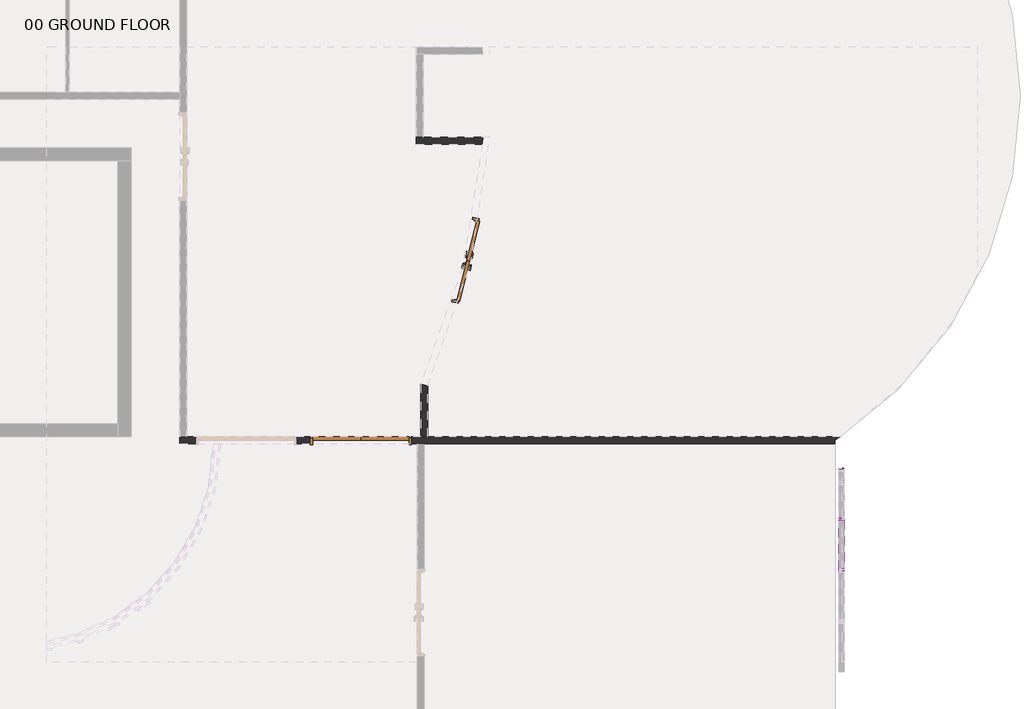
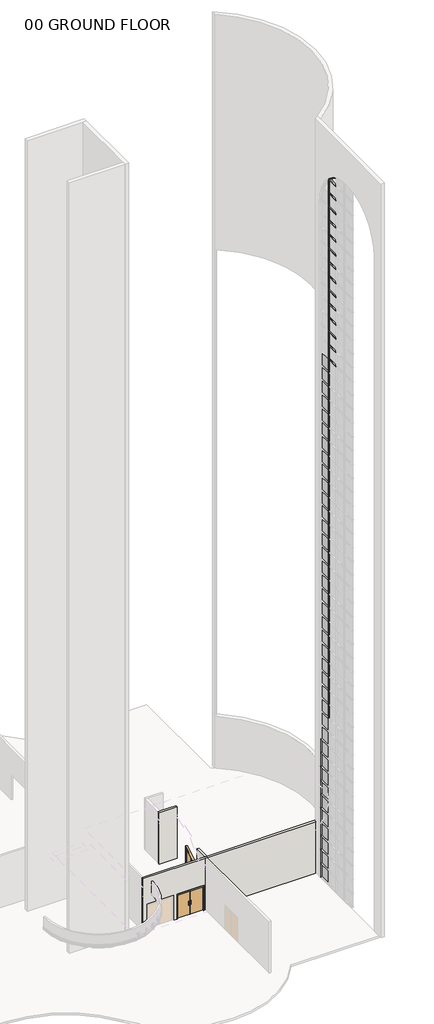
# One storey, part 22 of 33: 65 members, 38 plates, 3 walls, 2 doors.
"""IFC4 building model written with IfcOpenShell, lengths in millimetres."""

from ifc_helpers import new_model, si_unit, frame, origin, origin_with_axes, place, context, project, spatial, polyline, circle_curve, outline, extrude, transform, mapped, element, save
from ifc_brep_helpers import plane_surface, cylinder_surface, advanced_brep
from components import door_df8e76c5, door_0b13e4d9, member_d1490fb0, member_2b49869a, member_f6015b47, member_ba1b3d85, member_48355dab, member_75074519, system_panel_glazed_5adabceb, system_panel_glazed_b0e4ebfd

model = new_model("IFC4")

# Units and contexts
model_context = context("Model", 3, world=origin())
ifc_project = project(units=[si_unit("LENGTHUNIT", "METRE", prefix="MILLI")], contexts=[model_context])

# Site, building, storey
site = spatial("IfcSite", under=ifc_project)
building = spatial("IfcBuilding", under=site)
storey = spatial("IfcBuildingStorey", under=building, Name="00 GROUND FLOOR", Elevation=0.0)

# Doors
placement = place(None, origin())
door_shape = door_df8e76c5(model_context)
element("IfcDoor", 1, ObjectType="Door-Passage-Double-Flush : 72\" x 82\"", at=placement, inside=storey, context=model_context, shape_type="MappedRepresentation", body=[
    mapped(door_shape, transform((35886.7385063, 13277.3403388, 0.0), x_axis=(0.23936619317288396, 0.9709293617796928, 0.0), y_axis=(-0.9709293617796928, 0.23936619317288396, 0.0), z_axis=(0.0, 0.0, 1.0))),
])
door_2_shape = door_0b13e4d9(model_context)
element("IfcDoor", 2, ObjectType="Door-Passage-Double-Flush-Dbl_Acting : 84\" x 84\"", at=placement, inside=storey, context=model_context, shape_type="MappedRepresentation", body=[
    mapped(door_2_shape, transform((33564.0300515, 9293.225, 0.0), x_axis=(-1.0, 0.0, 0.0), y_axis=(0.0, -1.0, 0.0), z_axis=(0.0, 0.0, 1.0))),
])

# Members
member_shape = member_d1490fb0(model_context)
element("IfcMember", 3, ObjectType="Rectangular Mullion : 2.5\" x 5\" rectangular", at=placement, inside=storey, context=model_context, shape_type="MappedRepresentation", body=[
    mapped(member_shape, transform((44184.4050515, 7526.1107141, 46329.6), x_axis=(0.0, 0.0, 1.0), y_axis=(1.0, 0.0, 0.0), z_axis=(0.0, 1.0, 0.0))),
])
element("IfcMember", 4, ObjectType="Rectangular Mullion : 2.5\" x 5\" rectangular", at=placement, inside=storey, context=model_context, shape_type="MappedRepresentation", body=[
    mapped(member_shape, transform((44184.4050515, 7526.1107141, 47548.8), x_axis=(0.0, 0.0, 1.0), y_axis=(1.0, 0.0, 0.0), z_axis=(0.0, 1.0, 0.0))),
])
element("IfcMember", 5, ObjectType="Rectangular Mullion : 2.5\" x 5\" rectangular", at=placement, inside=storey, context=model_context, shape_type="MappedRepresentation", body=[
    mapped(member_shape, transform((44184.4050515, 7526.1107141, 48768.0), x_axis=(0.0, 0.0, 1.0), y_axis=(1.0, 0.0, 0.0), z_axis=(0.0, 1.0, 0.0))),
])
element("IfcMember", 6, ObjectType="Rectangular Mullion : 2.5\" x 5\" rectangular", at=placement, inside=storey, context=model_context, shape_type="MappedRepresentation", body=[
    mapped(member_shape, transform((44184.4050515, 7526.1107141, 49987.2), x_axis=(0.0, 0.0, 1.0), y_axis=(1.0, 0.0, 0.0), z_axis=(0.0, 1.0, 0.0))),
])
element("IfcMember", 7, ObjectType="Rectangular Mullion : 2.5\" x 5\" rectangular", at=placement, inside=storey, context=model_context, shape_type="MappedRepresentation", body=[
    mapped(member_shape, transform((44184.4050515, 7526.1107141, 51206.4), x_axis=(0.0, 0.0, 1.0), y_axis=(1.0, 0.0, 0.0), z_axis=(0.0, 1.0, 0.0))),
])
element("IfcMember", 8, ObjectType="Rectangular Mullion : 2.5\" x 5\" rectangular", at=placement, inside=storey, context=model_context, shape_type="MappedRepresentation", body=[
    mapped(member_shape, transform((44184.4050515, 7526.1107141, 52425.6), x_axis=(0.0, 0.0, 1.0), y_axis=(1.0, 0.0, 0.0), z_axis=(0.0, 1.0, 0.0))),
])
element("IfcMember", 9, ObjectType="Rectangular Mullion : 2.5\" x 5\" rectangular", at=placement, inside=storey, context=model_context, shape_type="MappedRepresentation", body=[
    mapped(member_shape, transform((44184.4050515, 7526.1107141, 53644.8), x_axis=(0.0, 0.0, 1.0), y_axis=(1.0, 0.0, 0.0), z_axis=(0.0, 1.0, 0.0))),
])
element("IfcMember", 10, ObjectType="Rectangular Mullion : 2.5\" x 5\" rectangular", at=placement, inside=storey, context=model_context, shape_type="MappedRepresentation", body=[
    mapped(member_shape, transform((44184.4050515, 7526.1107141, 54864.0), x_axis=(0.0, 0.0, 1.0), y_axis=(1.0, 0.0, 0.0), z_axis=(0.0, 1.0, 0.0))),
])
element("IfcMember", 11, ObjectType="Rectangular Mullion : 2.5\" x 5\" rectangular", at=placement, inside=storey, context=model_context, shape_type="MappedRepresentation", body=[
    mapped(member_shape, transform((44184.4050515, 7526.1107141, 56083.2), x_axis=(0.0, 0.0, 1.0), y_axis=(1.0, 0.0, 0.0), z_axis=(0.0, 1.0, 0.0))),
])
element("IfcMember", 12, ObjectType="Rectangular Mullion : 2.5\" x 5\" rectangular", at=placement, inside=storey, context=model_context, shape_type="MappedRepresentation", body=[
    mapped(member_shape, transform((44184.4050515, 7526.1107141, 57302.4), x_axis=(0.0, 0.0, 1.0), y_axis=(1.0, 0.0, 0.0), z_axis=(0.0, 1.0, 0.0))),
])
element("IfcMember", 13, ObjectType="Rectangular Mullion : 2.5\" x 5\" rectangular", at=placement, inside=storey, context=model_context, shape_type="MappedRepresentation", body=[
    mapped(member_shape, transform((44184.4050515, 7526.1107141, 58521.6), x_axis=(0.0, 0.0, 1.0), y_axis=(1.0, 0.0, 0.0), z_axis=(0.0, 1.0, 0.0))),
])
element("IfcMember", 14, ObjectType="Rectangular Mullion : 2.5\" x 5\" rectangular", at=placement, inside=storey, context=model_context, shape_type="MappedRepresentation", body=[
    mapped(member_shape, transform((44184.4050515, 7526.1107141, 59740.8), x_axis=(0.0, 0.0, 1.0), y_axis=(1.0, 0.0, 0.0), z_axis=(0.0, 1.0, 0.0))),
])
element("IfcMember", 15, ObjectType="Rectangular Mullion : 2.5\" x 5\" rectangular", at=placement, inside=storey, context=model_context, shape_type="MappedRepresentation", body=[
    mapped(member_shape, transform((44184.4050515, 7526.1107141, 60960.0), x_axis=(0.0, 0.0, 1.0), y_axis=(1.0, 0.0, 0.0), z_axis=(0.0, 1.0, 0.0))),
])
element("IfcMember", 16, ObjectType="Rectangular Mullion : 2.5\" x 5\" rectangular", at=placement, inside=storey, context=model_context, shape_type="MappedRepresentation", body=[
    mapped(member_shape, transform((44184.4050515, 7526.1107141, 62179.2), x_axis=(0.0, 0.0, 1.0), y_axis=(1.0, 0.0, 0.0), z_axis=(0.0, 1.0, 0.0))),
])
member_2_shape = member_2b49869a(model_context)
element("IfcMember", 17, ObjectType="Rectangular Mullion : 2.5\" x 5\" rectangular", at=placement, inside=storey, context=model_context, shape_type="MappedRepresentation", body=[
    mapped(member_2_shape, transform((44184.4050515, 7557.8607141, 14630.4), x_axis=(0.0, 1.0, 0.0), y_axis=(1.0, 0.0, 0.0), z_axis=(0.0, 0.0, -1.0))),
])
element("IfcMember", 18, ObjectType="Rectangular Mullion : 2.5\" x 5\" rectangular", at=placement, inside=storey, context=model_context, shape_type="MappedRepresentation", body=[
    mapped(member_2_shape, transform((44184.4050515, 7557.8607141, 15849.6), x_axis=(0.0, 1.0, 0.0), y_axis=(1.0, 0.0, 0.0), z_axis=(0.0, 0.0, -1.0))),
])
element("IfcMember", 19, ObjectType="Rectangular Mullion : 2.5\" x 5\" rectangular", at=placement, inside=storey, context=model_context, shape_type="MappedRepresentation", body=[
    mapped(member_2_shape, transform((44184.4050515, 7557.8607141, 17068.8), x_axis=(0.0, 1.0, 0.0), y_axis=(1.0, 0.0, 0.0), z_axis=(0.0, 0.0, -1.0))),
])
element("IfcMember", 20, ObjectType="Rectangular Mullion : 2.5\" x 5\" rectangular", at=placement, inside=storey, context=model_context, shape_type="MappedRepresentation", body=[
    mapped(member_2_shape, transform((44184.4050515, 7557.8607141, 18288.0), x_axis=(0.0, 1.0, 0.0), y_axis=(1.0, 0.0, 0.0), z_axis=(0.0, 0.0, -1.0))),
])
element("IfcMember", 21, ObjectType="Rectangular Mullion : 2.5\" x 5\" rectangular", at=placement, inside=storey, context=model_context, shape_type="MappedRepresentation", body=[
    mapped(member_2_shape, transform((44184.4050515, 7557.8607141, 19507.2), x_axis=(0.0, 1.0, 0.0), y_axis=(1.0, 0.0, 0.0), z_axis=(0.0, 0.0, -1.0))),
])
element("IfcMember", 22, ObjectType="Rectangular Mullion : 2.5\" x 5\" rectangular", at=placement, inside=storey, context=model_context, shape_type="MappedRepresentation", body=[
    mapped(member_2_shape, transform((44184.4050515, 7557.8607141, 20726.4), x_axis=(0.0, 1.0, 0.0), y_axis=(1.0, 0.0, 0.0), z_axis=(0.0, 0.0, -1.0))),
])
element("IfcMember", 23, ObjectType="Rectangular Mullion : 2.5\" x 5\" rectangular", at=placement, inside=storey, context=model_context, shape_type="MappedRepresentation", body=[
    mapped(member_2_shape, transform((44184.4050515, 7557.8607141, 21945.6), x_axis=(0.0, 1.0, 0.0), y_axis=(1.0, 0.0, 0.0), z_axis=(0.0, 0.0, -1.0))),
])
element("IfcMember", 24, ObjectType="Rectangular Mullion : 2.5\" x 5\" rectangular", at=placement, inside=storey, context=model_context, shape_type="MappedRepresentation", body=[
    mapped(member_2_shape, transform((44184.4050515, 7557.8607141, 23164.8), x_axis=(0.0, 1.0, 0.0), y_axis=(1.0, 0.0, 0.0), z_axis=(0.0, 0.0, -1.0))),
])
element("IfcMember", 25, ObjectType="Rectangular Mullion : 2.5\" x 5\" rectangular", at=placement, inside=storey, context=model_context, shape_type="MappedRepresentation", body=[
    mapped(member_2_shape, transform((44184.4050515, 7557.8607141, 24384.0), x_axis=(0.0, 1.0, 0.0), y_axis=(1.0, 0.0, 0.0), z_axis=(0.0, 0.0, -1.0))),
])
element("IfcMember", 26, ObjectType="Rectangular Mullion : 2.5\" x 5\" rectangular", at=placement, inside=storey, context=model_context, shape_type="MappedRepresentation", body=[
    mapped(member_2_shape, transform((44184.4050515, 7557.8607141, 25603.2), x_axis=(0.0, 1.0, 0.0), y_axis=(1.0, 0.0, 0.0), z_axis=(0.0, 0.0, -1.0))),
])
element("IfcMember", 27, ObjectType="Rectangular Mullion : 2.5\" x 5\" rectangular", at=placement, inside=storey, context=model_context, shape_type="MappedRepresentation", body=[
    mapped(member_2_shape, transform((44184.4050515, 7557.8607141, 26822.4), x_axis=(0.0, 1.0, 0.0), y_axis=(1.0, 0.0, 0.0), z_axis=(0.0, 0.0, -1.0))),
])
element("IfcMember", 28, ObjectType="Rectangular Mullion : 2.5\" x 5\" rectangular", at=placement, inside=storey, context=model_context, shape_type="MappedRepresentation", body=[
    mapped(member_2_shape, transform((44184.4050515, 7557.8607141, 28041.6), x_axis=(0.0, 1.0, 0.0), y_axis=(1.0, 0.0, 0.0), z_axis=(0.0, 0.0, -1.0))),
])
element("IfcMember", 29, ObjectType="Rectangular Mullion : 2.5\" x 5\" rectangular", at=placement, inside=storey, context=model_context, shape_type="MappedRepresentation", body=[
    mapped(member_2_shape, transform((44184.4050515, 7557.8607141, 29260.8), x_axis=(0.0, 1.0, 0.0), y_axis=(1.0, 0.0, 0.0), z_axis=(0.0, 0.0, -1.0))),
])
element("IfcMember", 30, ObjectType="Rectangular Mullion : 2.5\" x 5\" rectangular", at=placement, inside=storey, context=model_context, shape_type="MappedRepresentation", body=[
    mapped(member_2_shape, transform((44184.4050515, 7557.8607141, 30480.0), x_axis=(0.0, 1.0, 0.0), y_axis=(1.0, 0.0, 0.0), z_axis=(0.0, 0.0, -1.0))),
])
element("IfcMember", 31, ObjectType="Rectangular Mullion : 2.5\" x 5\" rectangular", at=placement, inside=storey, context=model_context, shape_type="MappedRepresentation", body=[
    mapped(member_2_shape, transform((44184.4050515, 7557.8607141, 31699.2), x_axis=(0.0, 1.0, 0.0), y_axis=(1.0, 0.0, 0.0), z_axis=(0.0, 0.0, -1.0))),
])
element("IfcMember", 32, ObjectType="Rectangular Mullion : 2.5\" x 5\" rectangular", at=placement, inside=storey, context=model_context, shape_type="MappedRepresentation", body=[
    mapped(member_2_shape, transform((44184.4050515, 7557.8607141, 32918.4), x_axis=(0.0, 1.0, 0.0), y_axis=(1.0, 0.0, 0.0), z_axis=(0.0, 0.0, -1.0))),
])
element("IfcMember", 33, ObjectType="Rectangular Mullion : 2.5\" x 5\" rectangular", at=placement, inside=storey, context=model_context, shape_type="MappedRepresentation", body=[
    mapped(member_2_shape, transform((44184.4050515, 7557.8607141, 34137.6), x_axis=(0.0, 1.0, 0.0), y_axis=(1.0, 0.0, 0.0), z_axis=(0.0, 0.0, -1.0))),
])
element("IfcMember", 34, ObjectType="Rectangular Mullion : 2.5\" x 5\" rectangular", at=placement, inside=storey, context=model_context, shape_type="MappedRepresentation", body=[
    mapped(member_2_shape, transform((44184.4050515, 7557.8607141, 35356.8), x_axis=(0.0, 1.0, 0.0), y_axis=(1.0, 0.0, 0.0), z_axis=(0.0, 0.0, -1.0))),
])
element("IfcMember", 35, ObjectType="Rectangular Mullion : 2.5\" x 5\" rectangular", at=placement, inside=storey, context=model_context, shape_type="MappedRepresentation", body=[
    mapped(member_2_shape, transform((44184.4050515, 7557.8607141, 36576.0), x_axis=(0.0, 1.0, 0.0), y_axis=(1.0, 0.0, 0.0), z_axis=(0.0, 0.0, -1.0))),
])
element("IfcMember", 36, ObjectType="Rectangular Mullion : 2.5\" x 5\" rectangular", at=placement, inside=storey, context=model_context, shape_type="MappedRepresentation", body=[
    mapped(member_2_shape, transform((44184.4050515, 7557.8607141, 37795.2), x_axis=(0.0, 1.0, 0.0), y_axis=(1.0, 0.0, 0.0), z_axis=(0.0, 0.0, -1.0))),
])
element("IfcMember", 37, ObjectType="Rectangular Mullion : 2.5\" x 5\" rectangular", at=placement, inside=storey, context=model_context, shape_type="MappedRepresentation", body=[
    mapped(member_2_shape, transform((44184.4050515, 7557.8607141, 39014.4), x_axis=(0.0, 1.0, 0.0), y_axis=(1.0, 0.0, 0.0), z_axis=(0.0, 0.0, -1.0))),
])
element("IfcMember", 38, ObjectType="Rectangular Mullion : 2.5\" x 5\" rectangular", at=placement, inside=storey, context=model_context, shape_type="MappedRepresentation", body=[
    mapped(member_2_shape, transform((44184.4050515, 7557.8607141, 40233.6), x_axis=(0.0, 1.0, 0.0), y_axis=(1.0, 0.0, 0.0), z_axis=(0.0, 0.0, -1.0))),
])
element("IfcMember", 39, ObjectType="Rectangular Mullion : 2.5\" x 5\" rectangular", at=placement, inside=storey, context=model_context, shape_type="MappedRepresentation", body=[
    mapped(member_2_shape, transform((44184.4050515, 7557.8607141, 41452.8), x_axis=(0.0, 1.0, 0.0), y_axis=(1.0, 0.0, 0.0), z_axis=(0.0, 0.0, -1.0))),
])
element("IfcMember", 40, ObjectType="Rectangular Mullion : 2.5\" x 5\" rectangular", at=placement, inside=storey, context=model_context, shape_type="MappedRepresentation", body=[
    mapped(member_2_shape, transform((44184.4050515, 7557.8607141, 42672.0), x_axis=(0.0, 1.0, 0.0), y_axis=(1.0, 0.0, 0.0), z_axis=(0.0, 0.0, -1.0))),
])
element("IfcMember", 41, ObjectType="Rectangular Mullion : 2.5\" x 5\" rectangular", at=placement, inside=storey, context=model_context, shape_type="MappedRepresentation", body=[
    mapped(member_2_shape, transform((44184.4050515, 7557.8607141, 43891.2), x_axis=(0.0, 1.0, 0.0), y_axis=(1.0, 0.0, 0.0), z_axis=(0.0, 0.0, -1.0))),
])
element("IfcMember", 42, ObjectType="Rectangular Mullion : 2.5\" x 5\" rectangular", at=placement, inside=storey, context=model_context, shape_type="MappedRepresentation", body=[
    mapped(member_2_shape, transform((44184.4050515, 7557.8607141, 45110.4), x_axis=(0.0, 1.0, 0.0), y_axis=(1.0, 0.0, 0.0), z_axis=(0.0, 0.0, -1.0))),
])
element("IfcMember", 43, ObjectType="Rectangular Mullion : 2.5\" x 5\" rectangular", at=placement, inside=storey, context=model_context, shape_type="MappedRepresentation", body=[
    mapped(member_2_shape, transform((44184.4050515, 7557.8607141, 46329.6), x_axis=(0.0, 1.0, 0.0), y_axis=(1.0, 0.0, 0.0), z_axis=(0.0, 0.0, -1.0))),
])
element("IfcMember", 44, ObjectType="Rectangular Mullion : 2.5\" x 5\" rectangular", at=placement, inside=storey, context=model_context, shape_type="MappedRepresentation", body=[
    mapped(member_2_shape, transform((44184.4050515, 7557.8607141, 47548.8), x_axis=(0.0, 1.0, 0.0), y_axis=(1.0, 0.0, 0.0), z_axis=(0.0, 0.0, -1.0))),
])
element("IfcMember", 45, ObjectType="Rectangular Mullion : 2.5\" x 5\" rectangular", at=placement, inside=storey, context=model_context, shape_type="MappedRepresentation", body=[
    mapped(member_2_shape, transform((44184.4050515, 7557.8607141, 48768.0), x_axis=(0.0, 1.0, 0.0), y_axis=(1.0, 0.0, 0.0), z_axis=(0.0, 0.0, -1.0))),
])
element("IfcMember", 46, ObjectType="Rectangular Mullion : 2.5\" x 5\" rectangular", at=placement, inside=storey, context=model_context, shape_type="MappedRepresentation", body=[
    mapped(member_2_shape, transform((44184.4050515, 7557.8607141, 49987.2), x_axis=(0.0, 1.0, 0.0), y_axis=(1.0, 0.0, 0.0), z_axis=(0.0, 0.0, -1.0))),
])
element("IfcMember", 47, ObjectType="Rectangular Mullion : 2.5\" x 5\" rectangular", at=placement, inside=storey, context=model_context, shape_type="MappedRepresentation", body=[
    mapped(member_2_shape, transform((44184.4050515, 7557.8607141, 51206.4), x_axis=(0.0, 1.0, 0.0), y_axis=(1.0, 0.0, 0.0), z_axis=(0.0, 0.0, -1.0))),
])
element("IfcMember", 48, ObjectType="Rectangular Mullion : 2.5\" x 5\" rectangular", at=placement, inside=storey, context=model_context, shape_type="MappedRepresentation", body=[
    mapped(member_2_shape, transform((44184.4050515, 7557.8607141, 52425.6), x_axis=(0.0, 1.0, 0.0), y_axis=(1.0, 0.0, 0.0), z_axis=(0.0, 0.0, -1.0))),
])
element("IfcMember", 49, ObjectType="Rectangular Mullion : 2.5\" x 5\" rectangular", at=placement, inside=storey, context=model_context, shape_type="MappedRepresentation", body=[
    mapped(member_2_shape, transform((44184.4050515, 7557.8607141, 53644.8), x_axis=(0.0, 1.0, 0.0), y_axis=(1.0, 0.0, 0.0), z_axis=(0.0, 0.0, -1.0))),
])
element("IfcMember", 50, ObjectType="Rectangular Mullion : 2.5\" x 5\" rectangular", at=placement, inside=storey, context=model_context, shape_type="MappedRepresentation", body=[
    mapped(member_2_shape, transform((44184.4050515, 7557.8607141, 54864.0), x_axis=(0.0, 1.0, 0.0), y_axis=(1.0, 0.0, 0.0), z_axis=(0.0, 0.0, -1.0))),
])
element("IfcMember", 51, ObjectType="Rectangular Mullion : 2.5\" x 5\" rectangular", at=placement, inside=storey, context=model_context, shape_type="MappedRepresentation", body=[
    mapped(member_2_shape, transform((44184.4050515, 7557.8607141, 56083.2), x_axis=(0.0, 1.0, 0.0), y_axis=(1.0, 0.0, 0.0), z_axis=(0.0, 0.0, -1.0))),
])
element("IfcMember", 52, ObjectType="Rectangular Mullion : 2.5\" x 5\" rectangular", at=placement, inside=storey, context=model_context, shape_type="MappedRepresentation", body=[
    mapped(member_2_shape, transform((44184.4050515, 7557.8607141, 57302.4), x_axis=(0.0, 1.0, 0.0), y_axis=(1.0, 0.0, 0.0), z_axis=(0.0, 0.0, -1.0))),
])
element("IfcMember", 53, ObjectType="Rectangular Mullion : 2.5\" x 5\" rectangular", at=placement, inside=storey, context=model_context, shape_type="MappedRepresentation", body=[
    mapped(member_2_shape, transform((44184.4050515, 7557.8607141, 58521.6), x_axis=(0.0, 1.0, 0.0), y_axis=(1.0, 0.0, 0.0), z_axis=(0.0, 0.0, -1.0))),
])
element("IfcMember", 54, ObjectType="Rectangular Mullion : 2.5\" x 5\" rectangular", at=placement, inside=storey, context=model_context, shape_type="MappedRepresentation", body=[
    mapped(member_2_shape, transform((44184.4050515, 7557.8607141, 59740.8), x_axis=(0.0, 1.0, 0.0), y_axis=(1.0, 0.0, 0.0), z_axis=(0.0, 0.0, -1.0))),
])
member_3_shape = member_f6015b47(model_context)
element("IfcMember", 55, ObjectType="Rectangular Mullion : 2.5\" x 5\" rectangular", at=placement, inside=storey, context=model_context, shape_type="MappedRepresentation", body=[
    mapped(member_3_shape, transform((44184.4050515, 7557.8607141, 62209.1023307), x_axis=(0.0, 0.7142857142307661, 0.6998542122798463), y_axis=(1.0, 0.0, 0.0), z_axis=(0.0, 0.6998542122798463, -0.7142857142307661))),
])
member_4_shape = member_ba1b3d85(model_context)
element("IfcMember", 56, ObjectType="Rectangular Mullion : 2.5\" x 5\" rectangular", at=placement, inside=storey, context=model_context, shape_type="MappedRepresentation", body=[
    mapped(member_4_shape, transform((44184.4050515, 7557.8607141, 60960.0), x_axis=(0.0, 1.0, 0.0), y_axis=(1.0, 0.0, 0.0), z_axis=(0.0, 0.0, -1.0))),
])
member_5_shape = member_48355dab(model_context)
element("IfcMember", 57, ObjectType="Rectangular Mullion : 2.5\" x 5\" rectangular", at=placement, inside=storey, context=model_context, shape_type="MappedRepresentation", body=[
    mapped(member_5_shape, transform((44184.4050515, 7586.8524472, 62179.2), x_axis=(0.0, 0.7216024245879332, 0.6923076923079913), y_axis=(1.0, 0.0, 0.0), z_axis=(0.0, 0.6923076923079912, -0.7216024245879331))),
])
member_6_shape = member_75074519(model_context)
element("IfcMember", 58, ObjectType="Rectangular Mullion : 2.5\" x 5\" rectangular", at=placement, inside=storey, context=model_context, shape_type="MappedRepresentation", body=[
    mapped(member_6_shape, transform((44184.4050515, 8689.975, 0.0), x_axis=(0.0, 1.0, 0.0), y_axis=(1.0, 0.0, 0.0), z_axis=(0.0, 0.0, -1.0))),
])
element("IfcMember", 59, ObjectType="Rectangular Mullion : 2.5\" x 5\" rectangular", at=placement, inside=storey, context=model_context, shape_type="MappedRepresentation", body=[
    mapped(member_6_shape, transform((44184.4050515, 8689.975, 1219.2), x_axis=(0.0, 1.0, 0.0), y_axis=(1.0, 0.0, 0.0), z_axis=(0.0, 0.0, -1.0))),
])
element("IfcMember", 60, ObjectType="Rectangular Mullion : 2.5\" x 5\" rectangular", at=placement, inside=storey, context=model_context, shape_type="MappedRepresentation", body=[
    mapped(member_6_shape, transform((44184.4050515, 8689.975, 2438.4), x_axis=(0.0, 1.0, 0.0), y_axis=(1.0, 0.0, 0.0), z_axis=(0.0, 0.0, -1.0))),
])
element("IfcMember", 61, ObjectType="Rectangular Mullion : 2.5\" x 5\" rectangular", at=placement, inside=storey, context=model_context, shape_type="MappedRepresentation", body=[
    mapped(member_6_shape, transform((44184.4050515, 8689.975, 3657.6), x_axis=(0.0, 1.0, 0.0), y_axis=(1.0, 0.0, 0.0), z_axis=(0.0, 0.0, -1.0))),
])
element("IfcMember", 62, ObjectType="Rectangular Mullion : 2.5\" x 5\" rectangular", at=placement, inside=storey, context=model_context, shape_type="MappedRepresentation", body=[
    mapped(member_6_shape, transform((44184.4050515, 8689.975, 4876.8), x_axis=(0.0, 1.0, 0.0), y_axis=(1.0, 0.0, 0.0), z_axis=(0.0, 0.0, -1.0))),
])
element("IfcMember", 63, ObjectType="Rectangular Mullion : 2.5\" x 5\" rectangular", at=placement, inside=storey, context=model_context, shape_type="MappedRepresentation", body=[
    mapped(member_6_shape, transform((44184.4050515, 8689.975, 6096.0), x_axis=(0.0, 1.0, 0.0), y_axis=(1.0, 0.0, 0.0), z_axis=(0.0, 0.0, -1.0))),
])
element("IfcMember", 64, ObjectType="Rectangular Mullion : 2.5\" x 5\" rectangular", at=placement, inside=storey, context=model_context, shape_type="MappedRepresentation", body=[
    mapped(member_6_shape, transform((44184.4050515, 8689.975, 7315.2), x_axis=(0.0, 1.0, 0.0), y_axis=(1.0, 0.0, 0.0), z_axis=(0.0, 0.0, -1.0))),
])
element("IfcMember", 65, ObjectType="Rectangular Mullion : 2.5\" x 5\" rectangular", at=placement, inside=storey, context=model_context, shape_type="MappedRepresentation", body=[
    mapped(member_6_shape, transform((44184.4050515, 8689.975, 8534.4), x_axis=(0.0, 1.0, 0.0), y_axis=(1.0, 0.0, 0.0), z_axis=(0.0, 0.0, -1.0))),
])
element("IfcMember", 66, ObjectType="Rectangular Mullion : 2.5\" x 5\" rectangular", at=placement, inside=storey, context=model_context, shape_type="MappedRepresentation", body=[
    mapped(member_6_shape, transform((44184.4050515, 8689.975, 9753.6), x_axis=(0.0, 1.0, 0.0), y_axis=(1.0, 0.0, 0.0), z_axis=(0.0, 0.0, -1.0))),
])
element("IfcMember", 67, ObjectType="Rectangular Mullion : 2.5\" x 5\" rectangular", at=placement, inside=storey, context=model_context, shape_type="MappedRepresentation", body=[
    mapped(member_6_shape, transform((44184.4050515, 8689.975, 10972.8), x_axis=(0.0, 1.0, 0.0), y_axis=(1.0, 0.0, 0.0), z_axis=(0.0, 0.0, -1.0))),
])

# Plates
system_panel_glazed_shape = system_panel_glazed_5adabceb(model_context)
element("IfcPlate", 68, ObjectType="System Panel : Glazed", at=placement, inside=storey, context=model_context, shape_type="MappedRepresentation", body=[
    mapped(system_panel_glazed_shape, transform((44184.4050515, 8108.042857, 63.5), x_axis=(0.0, 1.0, 0.0), y_axis=(-1.0, 0.0, 0.0), z_axis=(0.0, 0.0, 1.0))),
])
system_panel_glazed_2_shape = system_panel_glazed_b0e4ebfd(model_context)
element("IfcPlate", 69, ObjectType="System Panel : Glazed", at=placement, inside=storey, context=model_context, shape_type="MappedRepresentation", body=[
    mapped(system_panel_glazed_2_shape, transform((44184.4050515, 8108.042857, 1250.95), x_axis=(0.0, 1.0, 0.0), y_axis=(-1.0, 0.0, 0.0), z_axis=(0.0, 0.0, 1.0))),
])
element("IfcPlate", 70, ObjectType="System Panel : Glazed", at=placement, inside=storey, context=model_context, shape_type="MappedRepresentation", body=[
    mapped(system_panel_glazed_2_shape, transform((44184.4050515, 8108.042857, 2470.15), x_axis=(0.0, 1.0, 0.0), y_axis=(-1.0, 0.0, 0.0), z_axis=(0.0, 0.0, 1.0))),
])
element("IfcPlate", 71, ObjectType="System Panel : Glazed", at=placement, inside=storey, context=model_context, shape_type="MappedRepresentation", body=[
    mapped(system_panel_glazed_2_shape, transform((44184.4050515, 8108.042857, 3689.35), x_axis=(0.0, 1.0, 0.0), y_axis=(-1.0, 0.0, 0.0), z_axis=(0.0, 0.0, 1.0))),
])
element("IfcPlate", 72, ObjectType="System Panel : Glazed", at=placement, inside=storey, context=model_context, shape_type="MappedRepresentation", body=[
    mapped(system_panel_glazed_2_shape, transform((44184.4050515, 8108.042857, 4908.55), x_axis=(0.0, 1.0, 0.0), y_axis=(-1.0, 0.0, 0.0), z_axis=(0.0, 0.0, 1.0))),
])
element("IfcPlate", 73, ObjectType="System Panel : Glazed", at=placement, inside=storey, context=model_context, shape_type="MappedRepresentation", body=[
    mapped(system_panel_glazed_2_shape, transform((44184.4050515, 8108.042857, 6127.75), x_axis=(0.0, 1.0, 0.0), y_axis=(-1.0, 0.0, 0.0), z_axis=(0.0, 0.0, 1.0))),
])
element("IfcPlate", 74, ObjectType="System Panel : Glazed", at=placement, inside=storey, context=model_context, shape_type="MappedRepresentation", body=[
    mapped(system_panel_glazed_2_shape, transform((44184.4050515, 8108.042857, 7346.95), x_axis=(0.0, 1.0, 0.0), y_axis=(-1.0, 0.0, 0.0), z_axis=(0.0, 0.0, 1.0))),
])
element("IfcPlate", 75, ObjectType="System Panel : Glazed", at=placement, inside=storey, context=model_context, shape_type="MappedRepresentation", body=[
    mapped(system_panel_glazed_2_shape, transform((44184.4050515, 8108.042857, 8566.15), x_axis=(0.0, 1.0, 0.0), y_axis=(-1.0, 0.0, 0.0), z_axis=(0.0, 0.0, 1.0))),
])
element("IfcPlate", 76, ObjectType="System Panel : Glazed", at=placement, inside=storey, context=model_context, shape_type="MappedRepresentation", body=[
    mapped(system_panel_glazed_2_shape, transform((44184.4050515, 8108.042857, 9785.35), x_axis=(0.0, 1.0, 0.0), y_axis=(-1.0, 0.0, 0.0), z_axis=(0.0, 0.0, 1.0))),
])
element("IfcPlate", 77, ObjectType="System Panel : Glazed", at=placement, inside=storey, context=model_context, shape_type="MappedRepresentation", body=[
    mapped(system_panel_glazed_2_shape, transform((44184.4050515, 8108.042857, 11004.55), x_axis=(0.0, 1.0, 0.0), y_axis=(-1.0, 0.0, 0.0), z_axis=(0.0, 0.0, 1.0))),
])
element("IfcPlate", 78, ObjectType="System Panel : Glazed", at=placement, inside=storey, context=model_context, shape_type="MappedRepresentation", body=[
    mapped(system_panel_glazed_2_shape, transform((44184.4050515, 8108.042857, 12223.75), x_axis=(0.0, 1.0, 0.0), y_axis=(-1.0, 0.0, 0.0), z_axis=(0.0, 0.0, 1.0))),
])
element("IfcPlate", 79, ObjectType="System Panel : Glazed", at=placement, inside=storey, context=model_context, shape_type="MappedRepresentation", body=[
    mapped(system_panel_glazed_2_shape, transform((44184.4050515, 8108.042857, 13442.95), x_axis=(0.0, 1.0, 0.0), y_axis=(-1.0, 0.0, 0.0), z_axis=(0.0, 0.0, 1.0))),
])
element("IfcPlate", 80, ObjectType="System Panel : Glazed", at=placement, inside=storey, context=model_context, shape_type="MappedRepresentation", body=[
    mapped(system_panel_glazed_2_shape, transform((44184.4050515, 8108.042857, 14662.15), x_axis=(0.0, 1.0, 0.0), y_axis=(-1.0, 0.0, 0.0), z_axis=(0.0, 0.0, 1.0))),
])
element("IfcPlate", 81, ObjectType="System Panel : Glazed", at=placement, inside=storey, context=model_context, shape_type="MappedRepresentation", body=[
    mapped(system_panel_glazed_2_shape, transform((44184.4050515, 8108.042857, 15881.35), x_axis=(0.0, 1.0, 0.0), y_axis=(-1.0, 0.0, 0.0), z_axis=(0.0, 0.0, 1.0))),
])
element("IfcPlate", 82, ObjectType="System Panel : Glazed", at=placement, inside=storey, context=model_context, shape_type="MappedRepresentation", body=[
    mapped(system_panel_glazed_2_shape, transform((44184.4050515, 8108.042857, 17100.55), x_axis=(0.0, 1.0, 0.0), y_axis=(-1.0, 0.0, 0.0), z_axis=(0.0, 0.0, 1.0))),
])
element("IfcPlate", 83, ObjectType="System Panel : Glazed", at=placement, inside=storey, context=model_context, shape_type="MappedRepresentation", body=[
    mapped(system_panel_glazed_2_shape, transform((44184.4050515, 8108.042857, 18319.75), x_axis=(0.0, 1.0, 0.0), y_axis=(-1.0, 0.0, 0.0), z_axis=(0.0, 0.0, 1.0))),
])
element("IfcPlate", 84, ObjectType="System Panel : Glazed", at=placement, inside=storey, context=model_context, shape_type="MappedRepresentation", body=[
    mapped(system_panel_glazed_2_shape, transform((44184.4050515, 8108.042857, 19538.95), x_axis=(0.0, 1.0, 0.0), y_axis=(-1.0, 0.0, 0.0), z_axis=(0.0, 0.0, 1.0))),
])
element("IfcPlate", 85, ObjectType="System Panel : Glazed", at=placement, inside=storey, context=model_context, shape_type="MappedRepresentation", body=[
    mapped(system_panel_glazed_2_shape, transform((44184.4050515, 8108.042857, 20758.15), x_axis=(0.0, 1.0, 0.0), y_axis=(-1.0, 0.0, 0.0), z_axis=(0.0, 0.0, 1.0))),
])
element("IfcPlate", 86, ObjectType="System Panel : Glazed", at=placement, inside=storey, context=model_context, shape_type="MappedRepresentation", body=[
    mapped(system_panel_glazed_2_shape, transform((44184.4050515, 8108.042857, 21977.35), x_axis=(0.0, 1.0, 0.0), y_axis=(-1.0, 0.0, 0.0), z_axis=(0.0, 0.0, 1.0))),
])
element("IfcPlate", 87, ObjectType="System Panel : Glazed", at=placement, inside=storey, context=model_context, shape_type="MappedRepresentation", body=[
    mapped(system_panel_glazed_2_shape, transform((44184.4050515, 8108.042857, 23196.55), x_axis=(0.0, 1.0, 0.0), y_axis=(-1.0, 0.0, 0.0), z_axis=(0.0, 0.0, 1.0))),
])
element("IfcPlate", 88, ObjectType="System Panel : Glazed", at=placement, inside=storey, context=model_context, shape_type="MappedRepresentation", body=[
    mapped(system_panel_glazed_2_shape, transform((44184.4050515, 8108.042857, 24415.75), x_axis=(0.0, 1.0, 0.0), y_axis=(-1.0, 0.0, 0.0), z_axis=(0.0, 0.0, 1.0))),
])
element("IfcPlate", 89, ObjectType="System Panel : Glazed", at=placement, inside=storey, context=model_context, shape_type="MappedRepresentation", body=[
    mapped(system_panel_glazed_2_shape, transform((44184.4050515, 8108.042857, 25634.95), x_axis=(0.0, 1.0, 0.0), y_axis=(-1.0, 0.0, 0.0), z_axis=(0.0, 0.0, 1.0))),
])
element("IfcPlate", 90, ObjectType="System Panel : Glazed", at=placement, inside=storey, context=model_context, shape_type="MappedRepresentation", body=[
    mapped(system_panel_glazed_2_shape, transform((44184.4050515, 8108.042857, 26854.15), x_axis=(0.0, 1.0, 0.0), y_axis=(-1.0, 0.0, 0.0), z_axis=(0.0, 0.0, 1.0))),
])
element("IfcPlate", 91, ObjectType="System Panel : Glazed", at=placement, inside=storey, context=model_context, shape_type="MappedRepresentation", body=[
    mapped(system_panel_glazed_2_shape, transform((44184.4050515, 8108.042857, 28073.35), x_axis=(0.0, 1.0, 0.0), y_axis=(-1.0, 0.0, 0.0), z_axis=(0.0, 0.0, 1.0))),
])
element("IfcPlate", 92, ObjectType="System Panel : Glazed", at=placement, inside=storey, context=model_context, shape_type="MappedRepresentation", body=[
    mapped(system_panel_glazed_2_shape, transform((44184.4050515, 8108.042857, 29292.55), x_axis=(0.0, 1.0, 0.0), y_axis=(-1.0, 0.0, 0.0), z_axis=(0.0, 0.0, 1.0))),
])
element("IfcPlate", 93, ObjectType="System Panel : Glazed", at=placement, inside=storey, context=model_context, shape_type="MappedRepresentation", body=[
    mapped(system_panel_glazed_2_shape, transform((44184.4050515, 8108.042857, 30511.75), x_axis=(0.0, 1.0, 0.0), y_axis=(-1.0, 0.0, 0.0), z_axis=(0.0, 0.0, 1.0))),
])
element("IfcPlate", 94, ObjectType="System Panel : Glazed", at=placement, inside=storey, context=model_context, shape_type="MappedRepresentation", body=[
    mapped(system_panel_glazed_2_shape, transform((44184.4050515, 8108.042857, 31730.95), x_axis=(0.0, 1.0, 0.0), y_axis=(-1.0, 0.0, 0.0), z_axis=(0.0, 0.0, 1.0))),
])
element("IfcPlate", 95, ObjectType="System Panel : Glazed", at=placement, inside=storey, context=model_context, shape_type="MappedRepresentation", body=[
    mapped(system_panel_glazed_2_shape, transform((44184.4050515, 8108.042857, 32950.15), x_axis=(0.0, 1.0, 0.0), y_axis=(-1.0, 0.0, 0.0), z_axis=(0.0, 0.0, 1.0))),
])
element("IfcPlate", 96, ObjectType="System Panel : Glazed", at=placement, inside=storey, context=model_context, shape_type="MappedRepresentation", body=[
    mapped(system_panel_glazed_2_shape, transform((44184.4050515, 8108.042857, 34169.35), x_axis=(0.0, 1.0, 0.0), y_axis=(-1.0, 0.0, 0.0), z_axis=(0.0, 0.0, 1.0))),
])
element("IfcPlate", 97, ObjectType="System Panel : Glazed", at=placement, inside=storey, context=model_context, shape_type="MappedRepresentation", body=[
    mapped(system_panel_glazed_2_shape, transform((44184.4050515, 8108.042857, 35388.55), x_axis=(0.0, 1.0, 0.0), y_axis=(-1.0, 0.0, 0.0), z_axis=(0.0, 0.0, 1.0))),
])
element("IfcPlate", 98, ObjectType="System Panel : Glazed", at=placement, inside=storey, context=model_context, shape_type="MappedRepresentation", body=[
    mapped(system_panel_glazed_2_shape, transform((44184.4050515, 8108.042857, 36607.75), x_axis=(0.0, 1.0, 0.0), y_axis=(-1.0, 0.0, 0.0), z_axis=(0.0, 0.0, 1.0))),
])
element("IfcPlate", 99, ObjectType="System Panel : Glazed", at=placement, inside=storey, context=model_context, shape_type="MappedRepresentation", body=[
    mapped(system_panel_glazed_2_shape, transform((44184.4050515, 8108.042857, 37826.95), x_axis=(0.0, 1.0, 0.0), y_axis=(-1.0, 0.0, 0.0), z_axis=(0.0, 0.0, 1.0))),
])
element("IfcPlate", 100, ObjectType="System Panel : Glazed", at=placement, inside=storey, context=model_context, shape_type="MappedRepresentation", body=[
    mapped(system_panel_glazed_2_shape, transform((44184.4050515, 8108.042857, 39046.15), x_axis=(0.0, 1.0, 0.0), y_axis=(-1.0, 0.0, 0.0), z_axis=(0.0, 0.0, 1.0))),
])
element("IfcPlate", 101, ObjectType="System Panel : Glazed", at=placement, inside=storey, context=model_context, shape_type="MappedRepresentation", body=[
    mapped(system_panel_glazed_2_shape, transform((44184.4050515, 8108.042857, 40265.35), x_axis=(0.0, 1.0, 0.0), y_axis=(-1.0, 0.0, 0.0), z_axis=(0.0, 0.0, 1.0))),
])
element("IfcPlate", 102, ObjectType="System Panel : Glazed", at=placement, inside=storey, context=model_context, shape_type="MappedRepresentation", body=[
    mapped(system_panel_glazed_2_shape, transform((44184.4050515, 8108.042857, 41484.55), x_axis=(0.0, 1.0, 0.0), y_axis=(-1.0, 0.0, 0.0), z_axis=(0.0, 0.0, 1.0))),
])
element("IfcPlate", 103, ObjectType="System Panel : Glazed", at=placement, inside=storey, context=model_context, shape_type="MappedRepresentation", body=[
    mapped(system_panel_glazed_2_shape, transform((44184.4050515, 8108.042857, 42703.75), x_axis=(0.0, 1.0, 0.0), y_axis=(-1.0, 0.0, 0.0), z_axis=(0.0, 0.0, 1.0))),
])
element("IfcPlate", 104, ObjectType="System Panel : Glazed", at=placement, inside=storey, context=model_context, shape_type="MappedRepresentation", body=[
    mapped(system_panel_glazed_2_shape, transform((44184.4050515, 8108.042857, 43922.95), x_axis=(0.0, 1.0, 0.0), y_axis=(-1.0, 0.0, 0.0), z_axis=(0.0, 0.0, 1.0))),
])
element("IfcPlate", 105, ObjectType="System Panel : Glazed", at=placement, inside=storey, context=model_context, shape_type="MappedRepresentation", body=[
    mapped(system_panel_glazed_2_shape, transform((44184.4050515, 8108.042857, 45142.15), x_axis=(0.0, 1.0, 0.0), y_axis=(-1.0, 0.0, 0.0), z_axis=(0.0, 0.0, 1.0))),
])

# Walls
element("IfcWall", 106, ObjectType="SYR_INT_TWO_HOUR", at=placement, inside=storey, context=model_context, shape_type="AdvancedBrep", body=[
    advanced_brep(
    [(29556.6275257, 9377.3625, 4572.0), (29712.2025257, 9377.3625, 4572.0), (34884.8300515, 9377.3625, 4572.0), (35040.4050515, 9377.3625, 4572.0), (44144.1842571, 9377.3625, 4572.0), (44144.1842571, 9377.3625, 0.0), (35040.4050515, 9377.3625, 0.0), (34884.8300515, 9377.3625, 0.0), (34681.6300515, 9377.3625, 0.0), (34681.6300515, 9377.3625, 2235.2), (32446.4300515, 9377.3625, 2235.2), (32446.4300515, 9377.3625, 0.0), (32150.6025257, 9377.3625, 0.0), (32150.6025257, 9377.3625, 2235.2), (29915.4025257, 9377.3625, 2235.2), (29915.4025257, 9377.3625, 0.0), (29712.2025257, 9377.3625, 0.0), (29556.6275257, 9377.3625, 0.0), (44028.8300515, 9221.7875, 4572.0), (34958.9464577, 9221.7875, 4572.0), (34803.3714577, 9221.7875, 4572.0), (29556.6275257, 9221.7875, 4572.0), (29556.6275257, 9221.7875, 0.0), (29915.4025257, 9221.7875, 0.0), (29915.4025257, 9221.7875, 2235.2), (32150.6025257, 9221.7875, 2235.2), (32150.6025257, 9221.7875, 0.0), (32446.4300515, 9221.7875, 0.0), (32446.4300515, 9221.7875, 2235.2), (34681.6300515, 9221.7875, 2235.2), (34681.6300515, 9221.7875, 0.0), (34803.3714577, 9221.7875, 0.0), (34958.9464577, 9221.7875, 0.0), (44028.8300515, 9221.7875, 0.0), (44028.8300515, 9299.575, 0.0), (44028.8300515, 9299.575, 4572.0)],
    [
        (0, 1),
        (1, 2),
        (2, 3),
        (3, 4),
        (4, 5),
        (5, 6),
        (6, 7),
        (7, 8),
        (8, 9),
        (9, 10),
        (10, 11),
        (11, 12),
        (12, 13),
        (13, 14),
        (14, 15),
        (15, 16),
        (16, 17),
        (17, 0),
        (18, 19),
        (19, 20),
        (20, 21),
        (21, 22),
        (22, 23),
        (23, 24),
        (24, 25),
        (25, 26),
        (26, 27),
        (27, 28),
        (28, 29),
        (29, 30),
        (30, 31),
        (31, 32),
        (32, 33),
        (33, 18),
        (11, 27),
        (26, 12),
        (30, 8),
        (5, 34, circle_curve(frame((38974.293871, 16919.575, 0.0), z_axis=(0.0, 0.0, -1.0), x_axis=(0.8333333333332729, 0.5527707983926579, 0.0)), 9144.0)),
        (34, 33),
        (22, 17),
        (15, 23),
        (0, 21),
        (18, 35),
        (35, 4, circle_curve(frame((38974.293871, 16919.575, 4572.0), z_axis=(0.0, 0.0, 1.0), x_axis=(0.8333333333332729, 0.5527707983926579, 0.0)), 9144.0)),
        (10, 28),
        (9, 29),
        (25, 13),
        (24, 14),
        (35, 34),
    ],
    [
        plane_surface(frame((44028.8300515, 9377.3625, 0.0), z_axis=(0.0, 1.0, 0.0), x_axis=(-1.0, 0.0, 0.0))),
        plane_surface(frame((44028.8300515, 9221.7875, 0.0), z_axis=(0.0, -1.0, 0.0), x_axis=(1.0, 0.0, 0.0))),
        plane_surface(frame((44305.118871, 9377.3625, 0.0), z_axis=(0.0, 0.0, -1.0), x_axis=(0.0, -1.0, 0.0))),
        plane_surface(frame((29634.4150257, 9377.3625, 4572.0), z_axis=(0.0, 0.0, 1.0), x_axis=(0.0, -1.0, 0.0))),
        plane_surface(frame((32446.4300515, 10745.7875, 0.0), z_axis=(1.0, 0.0, 0.0), x_axis=(0.0, -1.0, 0.0))),
        plane_surface(frame((32446.4300515, 10745.7875, 2235.2), z_axis=(0.0, 0.0, -1.0), x_axis=(0.0, -1.0, 0.0))),
        plane_surface(frame((34681.6300515, 10745.7875, 2235.2), z_axis=(-1.0, 0.0, 0.0), x_axis=(0.0, -1.0, 0.0))),
        plane_surface(frame((32150.6025257, 7697.7875, 0.0), z_axis=(-1.0, 0.0, 0.0), x_axis=(0.0, 1.0, 0.0))),
        plane_surface(frame((32150.6025257, 7697.7875, 2235.2), z_axis=(0.0, 0.0, -1.0), x_axis=(0.0, 1.0, 0.0))),
        plane_surface(frame((29915.4025257, 7697.7875, 2235.2), z_axis=(1.0, 0.0, 0.0), x_axis=(0.0, 1.0, 0.0))),
        cylinder_surface(frame((38974.293871, 16919.575, -228.6), z_axis=(0.0, 0.0, 1.0), x_axis=(0.8333333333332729, 0.5527707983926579, 0.0)), 9144.0),
        plane_surface(frame((44028.8300515, 1964.2230774, -228.6), z_axis=(1.0, 0.0, 0.0), x_axis=(0.0, 1.0, 0.0))),
        plane_surface(frame((29556.6275257, 33683.575, 0.0), z_axis=(-1.0, 0.0, 0.0), x_axis=(0.0, -1.0, 0.0))),
    ],
    [
        (0, [[1, 2, 3, 4, 5, 6, 7, 8, 9, 10, 11, 12, 13, 14, 15, 16, 17, 18]]),
        (1, [[19, 20, 21, 22, 23, 24, 25, 26, 27, 28, 29, 30, 31, 32, 33, 34]]),
        (2, [[35, -27, 36, -12]]),
        (2, [[37, -8, -7, -6, 38, 39, -33, -32, -31]]),
        (2, [[40, -17, -16, 41, -23]]),
        (3, [[-4, -3, -2, -1, 42, -21, -20, -19, 43, 44]]),
        (4, [[45, -28, -35, -11]]),
        (5, [[-45, -10, 46, -29]]),
        (6, [[-46, -9, -37, -30]]),
        (7, [[47, -13, -36, -26]]),
        (8, [[-47, -25, 48, -14]]),
        (9, [[-48, -24, -41, -15]]),
        (10, [[-5, -44, 49, -38]]),
        (11, [[-34, -39, -49, -43]]),
        (12, [[-18, -40, -22, -42]]),
    ],
),
])
element("IfcWall", 107, ObjectType="SYR_INT_TWO_HOUR", at=placement, inside=storey, context=model_context, shape_type="SweptSolid", body=[
    extrude(outline(polyline([(34884.8300515, 9377.3625), (34884.8300515, 10546.0189236), (35040.4050515, 10511.8426386), (35040.4050515, 9377.3625), (34884.8300515, 9377.3625)])), origin_with_axes(), (0.0, 0.0, 1.0), 4572.0),
])
element("IfcWall", 108, ObjectType="SYR_INT_TWO_HOUR", at=placement, inside=storey, context=model_context, shape_type="AdvancedBrep", body=[
    advanced_brep(
    [(36260.4137436, 16002.0, 0.0), (34939.3011452, 16002.0, 0.0), (34783.7261452, 16002.0, 0.0), (34783.7261452, 16002.0, 4572.0), (34939.3011452, 16002.0, 4572.0), (36260.4137436, 16002.0, 4572.0), (36250.2111967, 15846.425, 0.0), (36250.2111967, 15846.425, 4572.0), (34783.7261452, 15846.425, 4572.0), (34783.7261452, 15846.425, 0.0)],
    [
        (0, 1),
        (1, 2),
        (2, 3),
        (3, 4),
        (4, 5),
        (5, 0),
        (6, 7),
        (7, 8),
        (8, 9),
        (9, 6),
        (0, 6, circle_curve(frame((21125.7990959, 16916.4, 0.0), z_axis=(0.0, 0.0, -1.0), x_axis=(1.0, 0.0, 0.0)), 15162.2125)),
        (9, 2),
        (3, 8),
        (7, 5, circle_curve(frame((21125.7990959, 16916.4, 4572.0), z_axis=(0.0, 0.0, 1.0), x_axis=(1.0, 0.0, 0.0)), 15162.2125)),
    ],
    [
        plane_surface(frame((36365.7990959, 16002.0, 0.0), z_axis=(0.0, 1.0, 0.0), x_axis=(-1.0, 0.0, 0.0))),
        plane_surface(frame((36365.7990959, 15846.425, 0.0), z_axis=(0.0, -1.0, 0.0), x_axis=(1.0, 0.0, 0.0))),
        plane_surface(frame((36333.467029, 16002.0, 0.0), z_axis=(0.0, 0.0, -1.0), x_axis=(0.0, -1.0, 0.0))),
        plane_surface(frame((34861.5136452, 16002.0, 4572.0), z_axis=(0.0, 0.0, 1.0), x_axis=(0.0, -1.0, 0.0))),
        cylinder_surface(frame((21125.7990959, 16916.4, 0.0), z_axis=(0.0, 0.0, -1.0), x_axis=(1.0, 0.0, 0.0)), 15162.2125),
        plane_surface(frame((34783.7261452, 17087.0102762, 0.0), z_axis=(-1.0, 0.0, 0.0), x_axis=(0.0, -1.0, 0.0))),
    ],
    [
        (0, [[1, 2, 3, 4, 5, 6]]),
        (1, [[7, 8, 9, 10]]),
        (2, [[-2, -1, 11, -10, 12]]),
        (3, [[-5, -4, 13, -8, 14]]),
        (4, [[-6, -14, -7, -11]]),
        (5, [[-3, -12, -9, -13]]),
    ],
),
])

save(model, "model.ifc")
